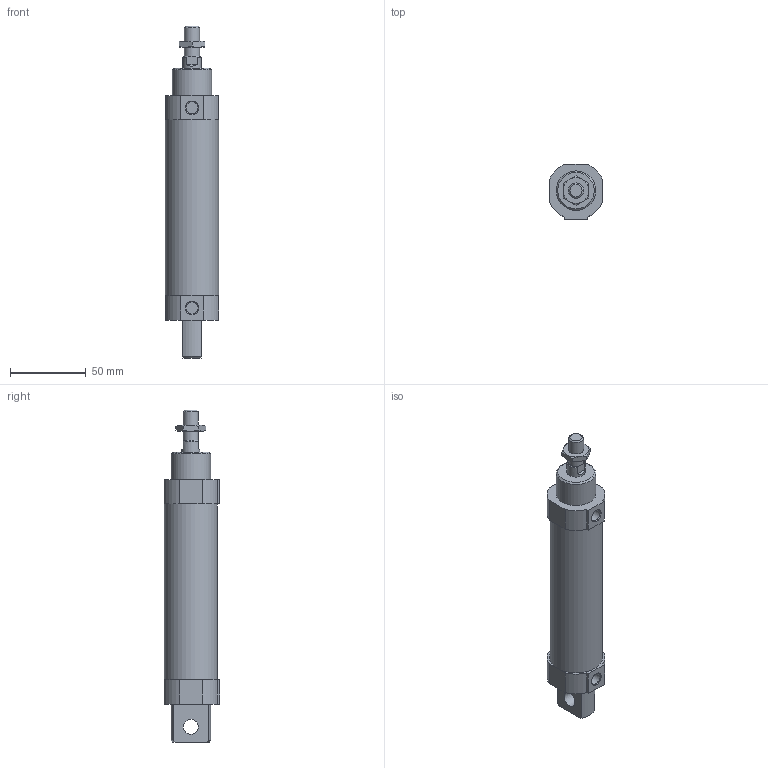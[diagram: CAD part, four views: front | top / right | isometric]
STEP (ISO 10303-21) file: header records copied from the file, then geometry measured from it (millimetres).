
FILE_DESCRIPTION((''),'2;1');
FILE_NAME('I:\3D電子目錄\氣缸\FDA\FDA\FDA\FDA30\FDA30x75.stp','2007-10-16T10:04:01',('66-2f-008'),(''),'Autodesk Inventor 11','Autodesk Inventor 11','');
FILE_SCHEMA(('AUTOMOTIVE_DESIGN { 1 0 10303 214 1 1 1 1 }'));
Length unit declared in the file: millimetre
Products named in the file (1): FDA30
Bounding box: 35 x 36.5 x 219 mm (x, y, z)
Volume: 165043.1 mm3; surface area: 24193.4 mm2
Topology: 1 solids, 1 shells, 79 faces, 184 edges, 114 vertices
Faces by surface type: plane 41, cone 20, cylinder 18
Full cylindrical faces by diameter (mm): 8 x2, 10 x3, 12 x1, 26 x1, 35 x1
Entity records: 2151 total; most frequent: CARTESIAN_POINT 426, DIRECTION 362, ORIENTED_EDGE 340, EDGE_CURVE 170, AXIS2_PLACEMENT_3D 144, VERTEX_POINT 112, EDGE_LOOP 100, FACE_OUTER_BOUND 79
